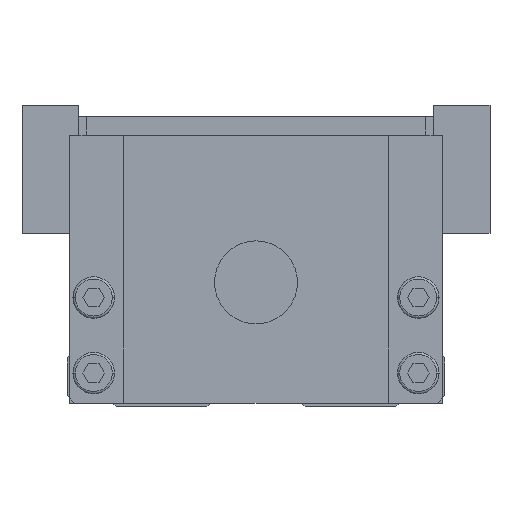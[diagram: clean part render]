
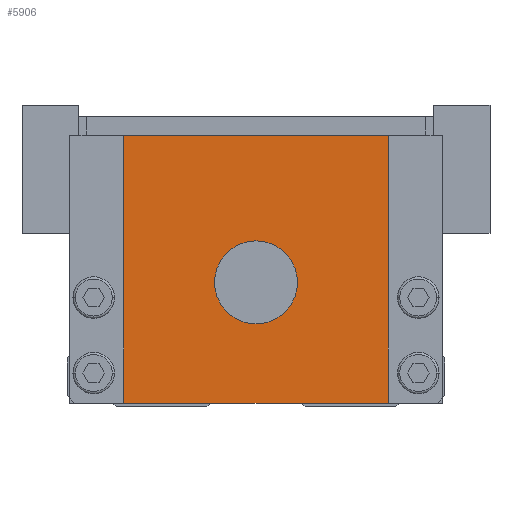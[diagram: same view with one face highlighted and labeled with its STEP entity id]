
A CAD part, front view. The second image highlights one B-rep face of the part: STEP entity #5906.
In plain terms, the highlighted planar face has unit normal (0, -1, 0).
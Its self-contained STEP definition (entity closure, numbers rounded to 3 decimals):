
#5402=VERTEX_POINT('',#13995);
#5762=EDGE_CURVE('',#5402,#8802,#14391,.T.);
#5906=ADVANCED_FACE('',(#14544,#14545),#14546,.F.);
#6428=EDGE_CURVE('',#8124,#5402,#15124,.T.);
#6454=VERTEX_POINT('',#15152);
#7124=EDGE_CURVE('',#7682,#10008,#15915,.T.);
#7522=EDGE_CURVE('',#10008,#7682,#16358,.T.);
#7682=VERTEX_POINT('',#16537);
#8124=VERTEX_POINT('',#17036);
#8802=VERTEX_POINT('',#17782);
#10008=VERTEX_POINT('',#19135);
#12160=EDGE_CURVE('',#6454,#8124,#21522,.T.);
#12696=EDGE_CURVE('',#6454,#8802,#22131,.T.);
#13995=CARTESIAN_POINT('',(17.5,0.0,0.5));
#14391=LINE('',#24576,#24577);
#14544=FACE_BOUND('',#24834,.T.);
#14545=FACE_OUTER_BOUND('',#24835,.T.);
#14546=PLANE('',#24836);
#15124=LINE('',#25702,#25703);
#15152=CARTESIAN_POINT('',(-17.5,0.0,36.0));
#15915=CIRCLE('',#26832,5.5);
#16358=CIRCLE('',#27468,5.5);
#16537=CARTESIAN_POINT('',(5.5,0.0,16.5));
#17036=CARTESIAN_POINT('',(17.5,0.0,36.0));
#17782=CARTESIAN_POINT('',(-17.5,0.0,0.5));
#19135=CARTESIAN_POINT('',(-5.5,0.0,16.5));
#21522=LINE('',#34672,#34673);
#22131=LINE('',#35596,#35597);
#24576=CARTESIAN_POINT('',(0.0,0.0,0.5));
#24577=VECTOR('',#37440,1.0);
#24834=EDGE_LOOP('',(#37575,#37576));
#24835=EDGE_LOOP('',(#37577,#37578,#37579,#37580));
#24836=AXIS2_PLACEMENT_3D('',#37581,#37582,#37583);
#25702=CARTESIAN_POINT('',(17.5,0.0,18.25));
#25703=VECTOR('',#38281,1.0);
#26832=AXIS2_PLACEMENT_3D('',#39267,#39268,#39269);
#27468=AXIS2_PLACEMENT_3D('',#39769,#39770,#39771);
#34672=CARTESIAN_POINT('',(0.0,0.0,36.0));
#34673=VECTOR('',#45668,1.0);
#35596=CARTESIAN_POINT('',(-17.5,0.0,18.25));
#35597=VECTOR('',#46436,1.0);
#37440=DIRECTION('',(-1.0,0.0,0.0));
#37575=ORIENTED_EDGE('',*,*,#7124,.T.);
#37576=ORIENTED_EDGE('',*,*,#7522,.T.);
#37577=ORIENTED_EDGE('',*,*,#12696,.T.);
#37578=ORIENTED_EDGE('',*,*,#5762,.F.);
#37579=ORIENTED_EDGE('',*,*,#6428,.F.);
#37580=ORIENTED_EDGE('',*,*,#12160,.F.);
#37581=CARTESIAN_POINT('',(0.0,0.0,18.25));
#37582=DIRECTION('',(0.0,1.0,0.0));
#37583=DIRECTION('',(0.0,0.0,1.0));
#38281=DIRECTION('',(0.0,0.0,-1.0));
#39267=CARTESIAN_POINT('',(0.0,0.0,16.5));
#39268=DIRECTION('',(-0.0,1.0,0.0));
#39269=DIRECTION('',(1.0,0.0,0.0));
#39769=CARTESIAN_POINT('',(0.0,0.0,16.5));
#39770=DIRECTION('',(-0.0,1.0,0.0));
#39771=DIRECTION('',(1.0,0.0,0.0));
#45668=DIRECTION('',(1.0,0.0,0.0));
#46436=DIRECTION('',(0.0,0.0,-1.0));
